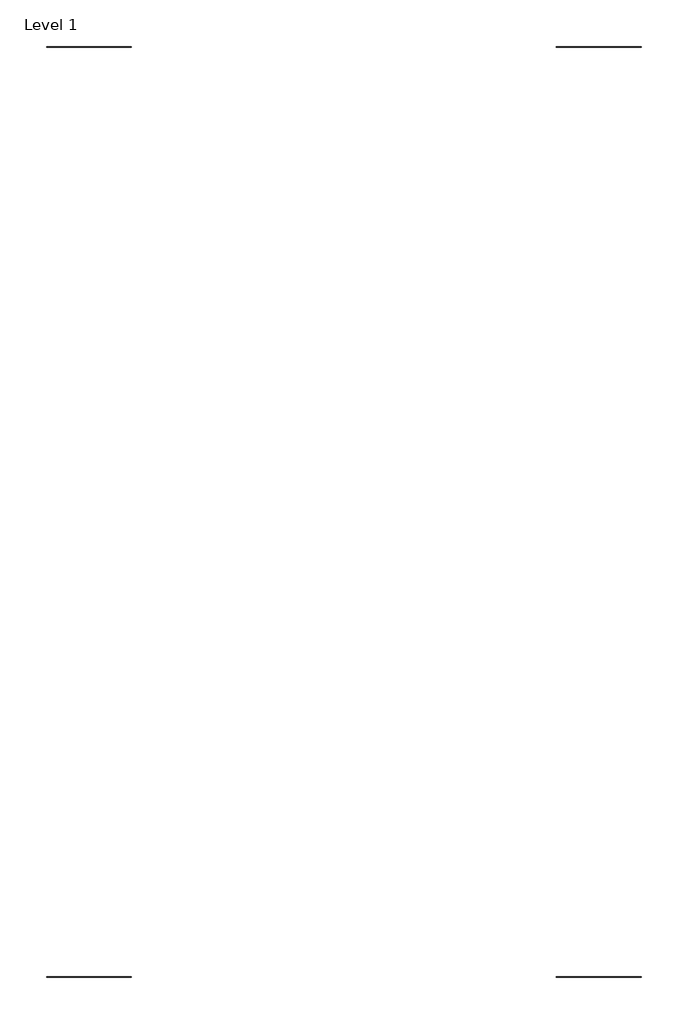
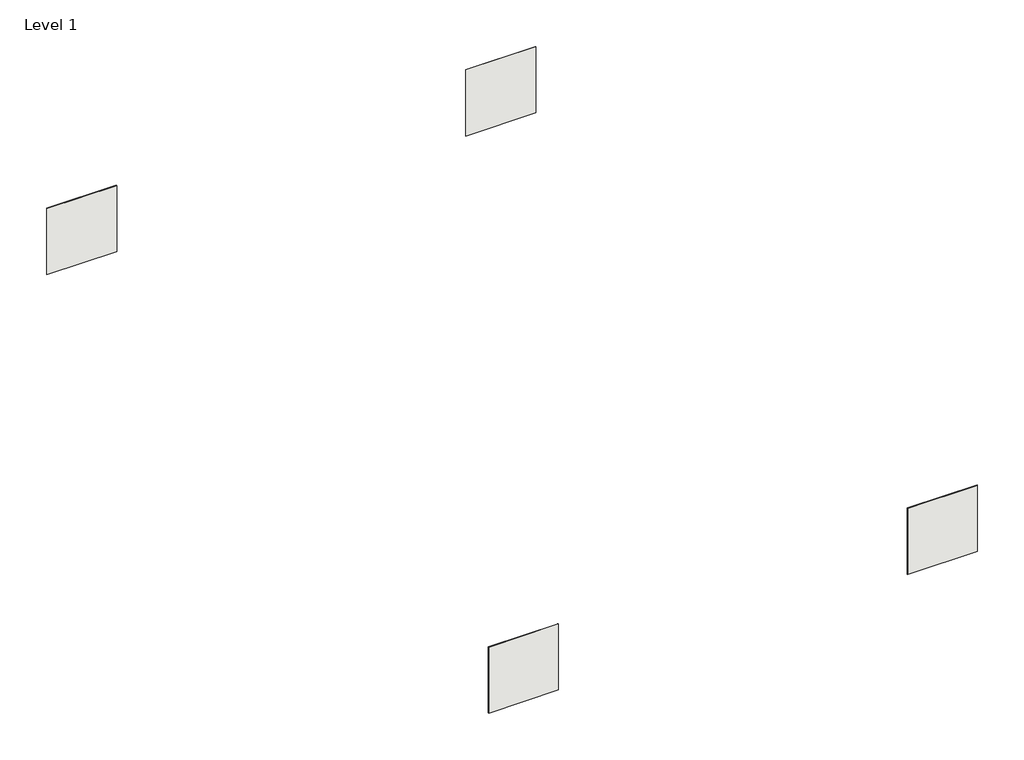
# One storey: 4 coverings.
"""IFC4 building model written with IfcOpenShell, lengths in millimetres."""

import ifcopenshell
import ifcopenshell.guid

model = None  # the IFC model being written
_history = None  # IfcOwnerHistory: only IFC2X3 demands one
_inside = {}  # id of a spatial element -> (the spatial element, [elements in it])
_under = {}  # id of a project, library or spatial element -> (it, [spatial elements below it])
_declared = {}  # id of a project -> (the project, [libraries it declares])
_typed = {}  # id of a type object -> (the type object, [elements of that type])
_made_of = {}  # id of a material, layer set ... -> (it, [elements and type objects made of it])


def new_model(schema):
    """Start an empty IFC model of exactly this schema.

    Asked for "IFC4X3", IfcOpenShell would pick the latest addendum, in which some entities
    have other attributes; the version numbers below select the first issue.
    IFC2X3 requires an IfcOwnerHistory on every rooted entity: one is made here for all.
    """
    global model, _history
    if schema == "IFC4X3":
        model = ifcopenshell.file(schema_version=(4, 3, 0, 0))
    else:
        model = ifcopenshell.file(schema=schema)
    _inside.clear()
    _under.clear()
    _declared.clear()
    _typed.clear()
    _made_of.clear()
    _history = None
    if model.schema == "IFC2X3":
        org = make("IfcOrganization", Name="unknown")
        user = make(
            "IfcPersonAndOrganization",
            ThePerson=make("IfcPerson", FamilyName="unknown"),
            TheOrganization=org,
        )
        app = make(
            "IfcApplication",
            ApplicationDeveloper=org,
            Version="unknown",
            ApplicationFullName="unknown",
            ApplicationIdentifier="unknown",
        )
        _history = make(
            "IfcOwnerHistory",
            OwningUser=user,
            OwningApplication=app,
            ChangeAction="ADDED",
            CreationDate=0,
        )
    return model


def make(cls, **values):
    """One entity of the class cls with the attributes given. An attribute that is None is left unset."""
    return model.create_entity(
        cls, **{name: value for name, value in values.items() if value is not None}
    )


def rooted(cls, **values):
    """An entity with a GlobalId (a new one), such as an element, a storey or a relation."""
    return make(cls, GlobalId=ifcopenshell.guid.new(), OwnerHistory=_history, **values)


def si_unit(unit_type, name, prefix=None):
    """IfcSIUnit, for example si_unit("LENGTHUNIT", "METRE", prefix="MILLI")."""
    return make("IfcSIUnit", UnitType=unit_type, Prefix=prefix, Name=name)


def assignment(units):
    """IfcUnitAssignment: the units of a project."""
    return None if units is None else make("IfcUnitAssignment", Units=units)


def point(xyz):
    """IfcCartesianPoint."""
    return None if xyz is None else make("IfcCartesianPoint", Coordinates=xyz)


def direction(xyz):
    """IfcDirection."""
    return None if xyz is None else make("IfcDirection", DirectionRatios=xyz)


def frame(location, z_axis=None, x_axis=None):
    """IfcAxis2Placement3D, a coordinate frame: its origin and axes. An axis left out is left unset."""
    return make(
        "IfcAxis2Placement3D",
        Location=point(location),
        Axis=direction(z_axis),
        RefDirection=direction(x_axis),
    )


def origin():
    """The frame at (0, 0, 0) with its axes left unset."""
    return frame((0.0, 0.0, 0.0))


def origin_with_axes():
    """The frame at (0, 0, 0) with the z axis (0, 0, 1) and the x axis (1, 0, 0) written out."""
    return frame((0.0, 0.0, 0.0), z_axis=(0.0, 0.0, 1.0), x_axis=(1.0, 0.0, 0.0))


def place(relative_to, where):
    """IfcLocalPlacement: puts the frame where relative to a parent placement (None: the world)."""
    return make(
        "IfcLocalPlacement", PlacementRelTo=relative_to, RelativePlacement=where
    )


def context(
    kind, dimensions, precision=None, world=None, true_north=None, identifier=None
):
    """IfcGeometricRepresentationContext, for example the 3D "Model" context."""
    return make(
        "IfcGeometricRepresentationContext",
        ContextIdentifier=identifier,
        ContextType=kind,
        CoordinateSpaceDimension=dimensions,
        Precision=precision,
        WorldCoordinateSystem=world,
        TrueNorth=true_north,
    )


def project(units=None, contexts=None):
    """IfcProject with its units and contexts."""
    return rooted(
        "IfcProject",
        Name="project",
        RepresentationContexts=contexts,
        UnitsInContext=assignment(units),
    )


def spatial(cls, under=None, at=None, **own):
    """A site, building, storey or space (cls), placed at a placement, below another one or the project."""
    s = rooted(cls, ObjectPlacement=at, **own)
    if under is not None:
        _under.setdefault(under.id(), (under, []))[1].append(s)
    return s


def polyline(points):
    """IfcPolyline through the points."""
    return make("IfcPolyline", Points=[point(p) for p in points])


def outline(outer, holes=None, kind="AREA"):
    """IfcArbitraryClosedProfileDef: a profile drawn as a closed curve; with holes, ...WithVoids."""
    if holes is None:
        return make("IfcArbitraryClosedProfileDef", ProfileType=kind, OuterCurve=outer)
    return make(
        "IfcArbitraryProfileDefWithVoids",
        ProfileType=kind,
        OuterCurve=outer,
        InnerCurves=holes,
    )


def extrude(swept, where, along, depth):
    """IfcExtrudedAreaSolid: the profile swept, set in the frame where, extruded along a direction by depth."""
    return make(
        "IfcExtrudedAreaSolid",
        SweptArea=swept,
        Position=where,
        ExtrudedDirection=direction(along),
        Depth=depth,
    )


def shape(context_of_items, identifier, shape_type, items):
    """IfcShapeRepresentation: the items that make up one representation, for example the "Body"."""
    return make(
        "IfcShapeRepresentation",
        ContextOfItems=context_of_items,
        RepresentationIdentifier=identifier,
        RepresentationType=shape_type,
        Items=items,
    )


def made_of(thing, what):
    """Note that an element or type object is made of a material, layer set ...; save() writes the relation."""
    if what is not None:
        _made_of.setdefault(what.id(), (what, []))[1].append(thing)
    return thing


def element(
    cls,
    number,
    at=None,
    inside=None,
    cuts=None,
    type_object=None,
    material=None,
    context=None,
    identifier="Body",
    shape_type=None,
    held_by="IfcProductDefinitionShape",
    body=None,
    shapes=None,
    **own,
):
    """One element of the class cls, such as IfcWall. Its Tag is "e" and its number.

    at: its placement. inside: the storey or other place that contains it. cuts: it is an
    opening in that element (IfcRelVoidsElement). A single representation is given by context,
    identifier, shape_type and body (its items); several are given by shapes. held_by: the class
    of the entity that holds the representations. save() writes the other relations.
    """
    e = rooted(cls, Tag="e%d" % number, ObjectPlacement=at, **own)
    if body is not None:
        shapes = [shape(context, identifier, shape_type, body)]
    if shapes is not None:
        e.Representation = make(held_by, Representations=shapes)
    if inside is not None:
        _inside.setdefault(inside.id(), (inside, []))[1].append(e)
    if cuts is not None:
        rooted(
            "IfcRelVoidsElement", RelatingBuildingElement=cuts, RelatedOpeningElement=e
        )
    if type_object is not None:
        _typed.setdefault(type_object.id(), (type_object, []))[1].append(e)
    return made_of(e, material)


def aggregate(whole, parts):
    """IfcRelAggregates: a whole, such as a stair, and the parts it consists of."""
    return rooted("IfcRelAggregates", RelatingObject=whole, RelatedObjects=parts)


def save(model, path):
    """Write the relations noted so far, then the file.

    IfcRelAggregates (storeys below a building ...), IfcRelContainedInSpatialStructure (elements
    in a storey), IfcRelDefinesByType, IfcRelAssociatesMaterial and IfcRelDeclares: one each for
    every whole, place, type object, material and project.
    """
    for whole, parts in _under.values():
        aggregate(whole, parts)
    for where, things in _inside.values():
        rooted(
            "IfcRelContainedInSpatialStructure",
            RelatedElements=things,
            RelatingStructure=where,
        )
    for kind, things in _typed.values():
        rooted("IfcRelDefinesByType", RelatedObjects=things, RelatingType=kind)
    for what, things in _made_of.values():
        rooted("IfcRelAssociatesMaterial", RelatedObjects=things, RelatingMaterial=what)
    for by, libraries in _declared.values():
        rooted("IfcRelDeclares", RelatingContext=by, RelatedDefinitions=libraries)
    model.write(path)


model = new_model("IFC4")

# Units and contexts
model_context = context("Model", 3, world=origin())
ifc_project = project(units=[si_unit("LENGTHUNIT", "METRE", prefix="MILLI")], contexts=[model_context])

# Site, building, storey
site = spatial("IfcSite", under=ifc_project)
building = spatial("IfcBuilding", under=site)
storey = spatial("IfcBuildingStorey", under=building, Name="Level 1", Elevation=0.0)

# Coverings
placement = place(None, origin())
element("IfcCovering", 1, ObjectType="LOVE TILES-SENSE-BITMAP DECORATION-35x70-MATT RECTIFIED-BLUE", at=placement, inside=storey, context=model_context, shape_type="SweptSolid", body=[
    extrude(outline(polyline([(28997.0720096, -26211.5513387), (27997.0720096, -26211.5513387), (27997.0720096, -26203.5513387), (28997.0720096, -26203.5513387), (28997.0720096, -26211.5513387)])), origin_with_axes(), (0.0, 0.0, 1.0), 1000.0),
])
element("IfcCovering", 2, ObjectType="LOVE TILES-SENSE-BITMAP DECORATION-35x70-MATT RECTIFIED-GREEN", at=placement, inside=storey, context=model_context, shape_type="SweptSolid", body=[
    extrude(outline(polyline([(34997.0720096, -26211.5513387), (33997.0720096, -26211.5513387), (33997.0720096, -26203.5513387), (34997.0720096, -26203.5513387), (34997.0720096, -26211.5513387)])), origin_with_axes(), (0.0, 0.0, 1.0), 1000.0),
])
element("IfcCovering", 3, ObjectType="LOVE TILES-SENSE-BITMAP DECORATION-35x70-MATT RECTIFIED-RED", at=placement, inside=storey, context=model_context, shape_type="SweptSolid", body=[
    extrude(outline(polyline([(28997.0720096, -37163.1437558), (27997.0720096, -37163.1437558), (27997.0720096, -37155.1437558), (28997.0720096, -37155.1437558), (28997.0720096, -37163.1437558)])), origin_with_axes(), (0.0, 0.0, 1.0), 1000.0),
])
element("IfcCovering", 4, ObjectType="LOVE TILES-SENSE-BITMAP DECORATION-35x70-MATT RECTIFIED-WHITE", at=placement, inside=storey, context=model_context, shape_type="SweptSolid", body=[
    extrude(outline(polyline([(34997.0720096, -37163.1437558), (33997.0720096, -37163.1437558), (33997.0720096, -37155.1437558), (34997.0720096, -37155.1437558), (34997.0720096, -37163.1437558)])), origin_with_axes(), (0.0, 0.0, 1.0), 1000.0),
])

save(model, "model.ifc")
